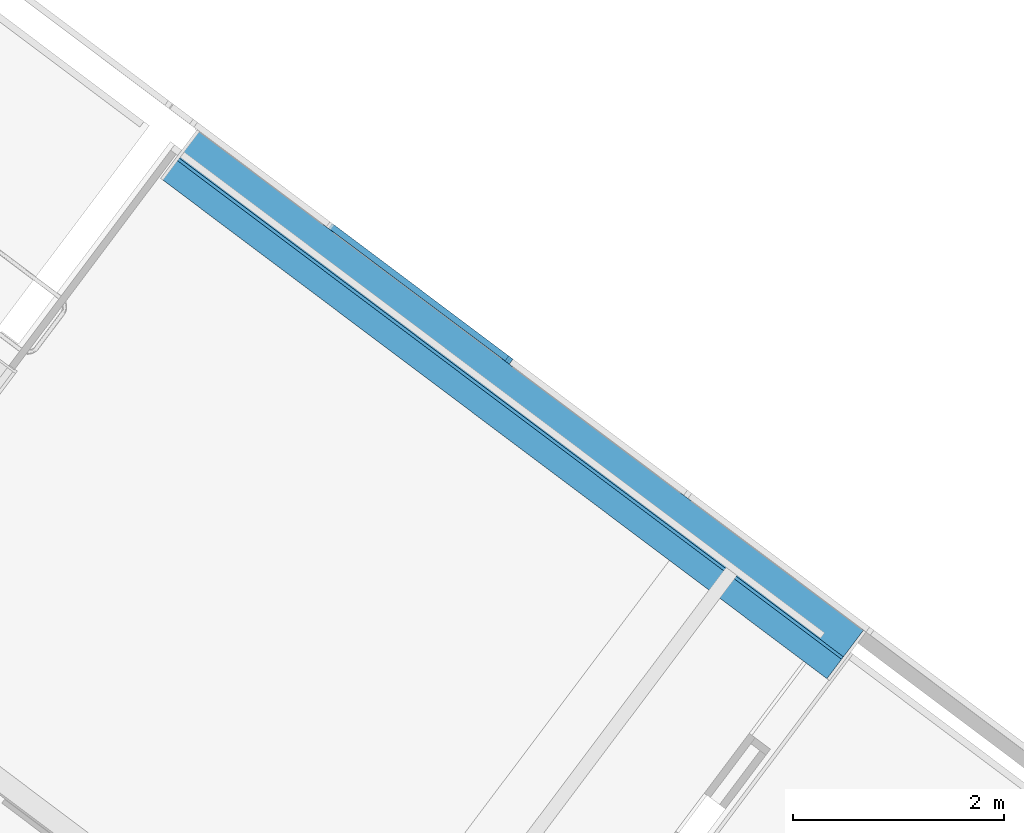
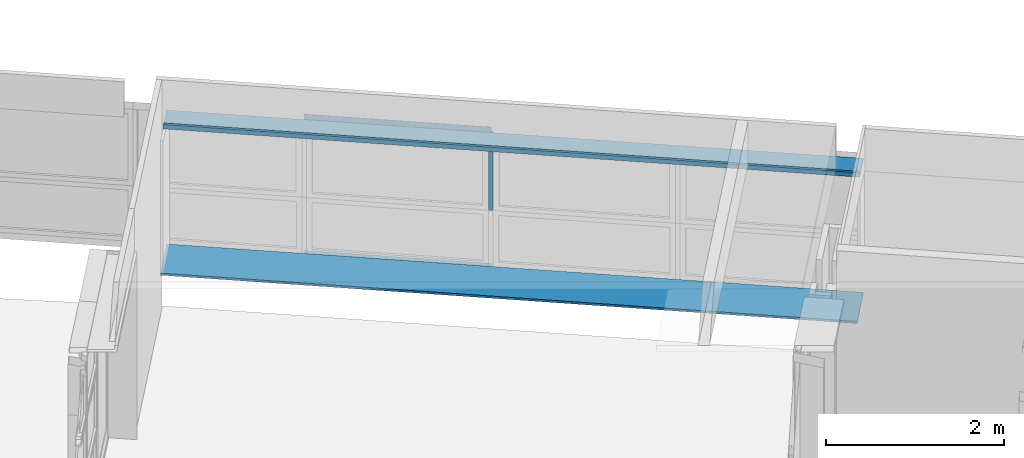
# One storey, part 32 of 243: 5 members, 2 elements without a shape of their own.
"""IFC2X3 building model written with IfcOpenShell, lengths in metres."""

from ifc_helpers import new_model, entity, si_unit, converted_unit, derived_unit, direction, frame, frame_2d, origin, origin_2d_with_axis, place, context, subcontext, project, spatial, polyline, rectangle, outline, extrude, source, transform, mapped, material, type_object, type_shapes, element, aggregate, save


model = new_model("IFC2X3")

# Units and contexts
model_context = context("Model", 3, precision=1e-05, world=origin(), true_north=direction((6.123031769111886e-17, 1.0)))
body_context = subcontext(model_context, "Body", "Model", "MODEL_VIEW")
ifc_project = project(units=[si_unit("LENGTHUNIT", "METRE"), si_unit("AREAUNIT", "SQUARE_METRE"), si_unit("VOLUMEUNIT", "CUBIC_METRE"), converted_unit("PLANEANGLEUNIT", "DEGREE", entity("IfcRatioMeasure", 0.017453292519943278), si_unit("PLANEANGLEUNIT", "RADIAN"), dimensions=[0, 0, 0, 0, 0, 0, 0]), si_unit("MASSUNIT", "GRAM", prefix="KILO"), derived_unit("MASSDENSITYUNIT", [(si_unit("MASSUNIT", "GRAM", prefix="KILO"), 1), (si_unit("LENGTHUNIT", "METRE"), -3)]), derived_unit("IONCONCENTRATIONUNIT", [(si_unit("MASSUNIT", "GRAM", prefix="KILO"), 1), (si_unit("LENGTHUNIT", "METRE"), -3)]), derived_unit("MOMENTOFINERTIAUNIT", [(si_unit("LENGTHUNIT", "METRE"), 4)]), si_unit("TIMEUNIT", "SECOND"), si_unit("FREQUENCYUNIT", "HERTZ"), si_unit("THERMODYNAMICTEMPERATUREUNIT", "DEGREE_CELSIUS"), derived_unit("THERMALTRANSMITTANCEUNIT", [(si_unit("MASSUNIT", "GRAM", prefix="KILO"), 1), (si_unit("THERMODYNAMICTEMPERATUREUNIT", "KELVIN"), -1), (si_unit("TIMEUNIT", "SECOND"), -3)]), derived_unit("THERMALCONDUCTANCEUNIT", [(si_unit("MASSUNIT", "GRAM", prefix="KILO"), 1), (si_unit("THERMODYNAMICTEMPERATUREUNIT", "KELVIN"), -1), (si_unit("TIMEUNIT", "SECOND"), -3), (si_unit("LENGTHUNIT", "METRE"), 1)]), derived_unit("VOLUMETRICFLOWRATEUNIT", [(si_unit("LENGTHUNIT", "METRE"), 3), (si_unit("TIMEUNIT", "SECOND"), -1)]), derived_unit("MASSFLOWRATEUNIT", [(si_unit("MASSUNIT", "GRAM", prefix="KILO"), 1), (si_unit("TIMEUNIT", "SECOND"), -1)]), derived_unit("ROTATIONALFREQUENCYUNIT", [(si_unit("TIMEUNIT", "SECOND"), -1)]), si_unit("ELECTRICCURRENTUNIT", "AMPERE"), si_unit("ELECTRICVOLTAGEUNIT", "VOLT"), si_unit("POWERUNIT", "WATT"), si_unit("FORCEUNIT", "NEWTON", prefix="KILO"), si_unit("ILLUMINANCEUNIT", "LUX"), si_unit("LUMINOUSFLUXUNIT", "LUMEN"), si_unit("LUMINOUSINTENSITYUNIT", "CANDELA"), derived_unit("USERDEFINED", [(si_unit("MASSUNIT", "GRAM", prefix="KILO"), -1), (si_unit("LENGTHUNIT", "METRE"), -2), (si_unit("TIMEUNIT", "SECOND"), 3), (si_unit("LUMINOUSFLUXUNIT", "LUMEN"), 1)]), derived_unit("USERDEFINED", [(si_unit("MASSUNIT", "GRAM", prefix="KILO"), 1), (si_unit("TIMEUNIT", "SECOND"), -3), (si_unit("LENGTHUNIT", "METRE"), 3), (si_unit("ELECTRICCURRENTUNIT", "AMPERE"), -2)]), derived_unit("SOUNDPOWERUNIT", [(si_unit("MASSUNIT", "GRAM", prefix="KILO"), 1), (si_unit("TIMEUNIT", "SECOND"), -3), (si_unit("LENGTHUNIT", "METRE"), 2)]), derived_unit("SOUNDPRESSUREUNIT", [(si_unit("MASSUNIT", "GRAM", prefix="KILO"), 1), (si_unit("LENGTHUNIT", "METRE"), -1), (si_unit("TIMEUNIT", "SECOND"), -2)]), derived_unit("LINEARVELOCITYUNIT", [(si_unit("LENGTHUNIT", "METRE"), 1), (si_unit("TIMEUNIT", "SECOND"), -1)]), si_unit("PRESSUREUNIT", "PASCAL"), derived_unit("USERDEFINED", [(si_unit("MASSUNIT", "GRAM", prefix="KILO"), 1), (si_unit("LENGTHUNIT", "METRE"), -2), (si_unit("TIMEUNIT", "SECOND"), -2)]), derived_unit("LINEARFORCEUNIT", [(si_unit("MASSUNIT", "GRAM", prefix="KILO"), 1), (si_unit("TIMEUNIT", "SECOND"), -2)]), derived_unit("PLANARFORCEUNIT", [(si_unit("MASSUNIT", "GRAM", prefix="KILO"), 1), (si_unit("LENGTHUNIT", "METRE"), -1), (si_unit("TIMEUNIT", "SECOND"), -2)]), derived_unit("SPECIFICHEATCAPACITYUNIT", [(si_unit("THERMODYNAMICTEMPERATUREUNIT", "KELVIN"), -1), (si_unit("LENGTHUNIT", "METRE"), 2), (si_unit("TIMEUNIT", "SECOND"), -2)]), derived_unit("HEATINGVALUEUNIT", [(si_unit("LENGTHUNIT", "METRE"), 2), (si_unit("TIMEUNIT", "SECOND"), -2)]), derived_unit("VAPORPERMEABILITYUNIT", [(si_unit("LENGTHUNIT", "METRE"), -1), (si_unit("TIMEUNIT", "SECOND"), 1)]), derived_unit("DYNAMICVISCOSITYUNIT", [(si_unit("MASSUNIT", "GRAM", prefix="KILO"), 1), (si_unit("TIMEUNIT", "SECOND"), -1), (si_unit("LENGTHUNIT", "METRE"), -1)]), derived_unit("THERMALEXPANSIONCOEFFICIENTUNIT", [(si_unit("THERMODYNAMICTEMPERATUREUNIT", "KELVIN"), -1)]), derived_unit("MODULUSOFELASTICITYUNIT", [(si_unit("MASSUNIT", "GRAM", prefix="KILO"), 1), (si_unit("LENGTHUNIT", "METRE"), -1), (si_unit("TIMEUNIT", "SECOND"), -2)]), derived_unit("ISOTHERMALMOISTURECAPACITYUNIT", [(si_unit("LENGTHUNIT", "METRE"), 3), (si_unit("MASSUNIT", "GRAM", prefix="KILO"), -1)]), derived_unit("MOISTUREDIFFUSIVITYUNIT", [(si_unit("TIMEUNIT", "SECOND"), -1), (si_unit("LENGTHUNIT", "METRE"), 2)])], contexts=[model_context])

# Site, building, storey
site_placement = place(None, frame((0.0, 0.0, 235.0), z_axis=(0.0, 0.0, 1.0), x_axis=(-0.7996477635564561, 0.6004693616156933, 0.0)))
site = spatial("IfcSite", under=ifc_project, at=site_placement, Name="Default", CompositionType="ELEMENT")
building_placement = place(site_placement, origin())
building = spatial("IfcBuilding", under=site, at=building_placement, CompositionType="ELEMENT")
storey_placement = place(building_placement, origin())
storey = spatial("IfcBuildingStorey", under=building, at=storey_placement, Name="P0- Escola", CompositionType="ELEMENT", Elevation=0.0)

# Curtain wall, members
curtain_wall_type_1 = type_object("IfcCurtainWallType", Name="Muro cortina:MC- EXT- MC6", PredefinedType="NOTDEFINED")
curtain_wall_1_placement = place(storey_placement, origin())
curtain_wall_1 = element("IfcCurtainWall", 1, at=curtain_wall_1_placement, inside=storey, type_object=curtain_wall_type_1, Name="Muro cortina:MC- EXT- MC6", ObjectType="Muro cortina:MC- EXT- MC6")
ifc_material_1 = material(Name="_Alumini- T1- Perfil")
member_type_1 = type_object("IfcMemberType", Name="Montante rectangular:MC- Alu- 140x52,5 cm- Fa pista- Superior", PredefinedType="MULLION", material=ifc_material_1)
shared_shape_1 = source(origin(), body_context, "Body", "SweptSolid", [
    extrude(outline(polyline([(-0.03933333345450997, -0.04916666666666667), (0.02066666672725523, -0.04916666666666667), (0.020666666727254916, 0.048333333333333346), (0.018666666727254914, 0.04833333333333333), (0.018666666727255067, 0.00083333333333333), (-0.03933333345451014, 0.00083333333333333), (-0.03933333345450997, -0.04916666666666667)])), frame((-0.048333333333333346, -0.03933333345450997, -2.117000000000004), z_axis=(0.0, 0.0, 1.0), x_axis=(0.0, -1.0, 0.0)), (0.0, 0.0, 1.0), 2.117000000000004),
])
type_shapes(member_type_1, [shared_shape_1])
member_1_placement = place(curtain_wall_1_placement, frame((22.005147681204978, -42.3401917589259, 2.6000000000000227), z_axis=(1.0, 0.0, 0.0), x_axis=(0.0, 0.0, 1.0)))
member_1 = element("IfcMember", 2, at=member_1_placement, type_object=member_type_1, material=ifc_material_1, Name="Montante rectangular:MC- Alu- 140x52,5 cm- Fa pista- Superior", ObjectType="Montante rectangular:MC- Alu- 140x52,5 cm- Fa pista- Superior", context=body_context, shape_type="MappedRepresentation", body=[
    mapped(shared_shape_1, transform((0.0, 0.0, 0.0), scale=1.0)),
])
member_type_2 = type_object("IfcMemberType", Name="Montante rectangular:MC- Alu- 52x80 cm- Fa pista- inferior", PredefinedType="MULLION", material=ifc_material_1)
shared_shape_2 = source(origin(), body_context, "Body", "SweptSolid", [
    extrude(rectangle(XDim=0.06000000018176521, YDim=0.085, at=origin_2d_with_axis()), frame((-0.0425, -0.030000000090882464, -2.117000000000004), z_axis=(0.0, 0.0, 1.0), x_axis=(0.0, -1.0, 0.0)), (0.0, 0.0, 1.0), 2.117000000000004),
])
type_shapes(member_type_2, [shared_shape_2])
member_2_placement = place(curtain_wall_1_placement, frame((19.888147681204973, -42.3401917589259, 0.6000000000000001), z_axis=(-1.0, 0.0, 0.0), x_axis=(0.0, 0.0, -1.0)))
member_2 = element("IfcMember", 3, at=member_2_placement, type_object=member_type_2, material=ifc_material_1, Name="Montante rectangular:MC- Alu- 52x80 cm- Fa pista- inferior", ObjectType="Montante rectangular:MC- Alu- 52x80 cm- Fa pista- inferior", context=body_context, shape_type="MappedRepresentation", body=[
    mapped(shared_shape_2, transform((0.0, 0.0, 0.0), scale=1.0)),
])
member_type_3 = type_object("IfcMemberType", Name="Montante rectangular:MC- Alu- 50x60 cm- Fa pista- Centre", PredefinedType="MULLION", material=ifc_material_1)
shared_shape_3 = source(origin(), body_context, "Body", "SweptSolid", [
    extrude(rectangle(XDim=0.0600000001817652, YDim=0.05, at=frame_2d((8.673617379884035e-18, 0.0), x_axis=(1.0, 0.0))), frame((0.0, -0.030000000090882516, -1.0475000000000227), z_axis=(0.0, 0.0, 1.0), x_axis=(0.0, -1.0, 0.0)), (0.0, 0.0, 1.0), 1.0475000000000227),
])
type_shapes(member_type_3, [shared_shape_3])
member_3_placement = place(curtain_wall_1_placement, frame((19.888147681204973, -42.3401917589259, 1.455), z_axis=(0.0, 0.0, -1.0), x_axis=(1.0, 0.0, 0.0)))
member_3 = element("IfcMember", 4, at=member_3_placement, type_object=member_type_3, material=ifc_material_1, Name="Montante rectangular:MC- Alu- 50x60 cm- Fa pista- Centre", ObjectType="Montante rectangular:MC- Alu- 50x60 cm- Fa pista- Centre", context=body_context, shape_type="MappedRepresentation", body=[
    mapped(shared_shape_3, transform((0.0, 0.0, 0.0), scale=1.0)),
])
aggregate(curtain_wall_1, [member_1, member_2, member_3])

curtain_wall_type_2 = type_object("IfcCurtainWallType", Name="Muro cortina:MC- INT- Fa Pista", PredefinedType="NOTDEFINED")
curtain_wall_2_placement = place(storey_placement, origin())
curtain_wall_2 = element("IfcCurtainWall", 5, at=curtain_wall_2_placement, inside=storey, type_object=curtain_wall_type_2, Name="Muro cortina:MC- INT- Fa Pista", ObjectType="Muro cortina:MC- INT- Fa Pista")
ifc_material_2 = material(Name="_Fusta massisa- T1")
member_type_4 = type_object("IfcMemberType", Name="Montante rectangular:MC- Fusta- 34x3 cm- Fa Pista- Remat Inferior", PredefinedType="MULLION", material=ifc_material_2)
shared_shape_4 = source(origin(), body_context, "Body", "SweptSolid", [
    extrude(outline(polyline([(-0.2783333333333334, -0.015000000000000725), (0.2966666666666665, -0.015000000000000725), (0.2966666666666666, 0.0), (-0.018333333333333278, 0.0), (-0.01833333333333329, 0.015000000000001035), (-0.2783333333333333, 0.015000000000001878), (-0.2783333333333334, -0.015000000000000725)])), frame((-0.015000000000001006, 0.046666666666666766, -7.894464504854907), z_axis=(0.0, 0.0, 1.0), x_axis=(0.0, -1.0, 0.0)), (0.0, 0.0, 1.0), 7.89446450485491),
])
type_shapes(member_type_4, [shared_shape_4])
member_4_placement = place(curtain_wall_2_placement, frame((23.561256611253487, -42.03019175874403, 0.6550000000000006), z_axis=(1.0, 0.0, 0.0), x_axis=(0.0, 0.0, -1.0)))
member_4 = element("IfcMember", 6, at=member_4_placement, type_object=member_type_4, material=ifc_material_2, Name="Montante rectangular:MC- Fusta- 34x3 cm- Fa Pista- Remat Inferior", ObjectType="Montante rectangular:MC- Fusta- 34x3 cm- Fa Pista- Remat Inferior", context=body_context, shape_type="MappedRepresentation", body=[
    mapped(shared_shape_4, transform((0.0, 0.0, 0.0), scale=1.0)),
])
member_type_5 = type_object("IfcMemberType", Name="Montante rectangular:MC- Fusta- 34x3 cm- Fa Pista- Remat Superior", PredefinedType="MULLION", material=ifc_material_2)
shared_shape_5 = source(origin(), body_context, "Body", "SweptSolid", [
    extrude(outline(polyline([(-0.12500000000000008, -0.02666666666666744), (0.22, -0.02666666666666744), (0.21999999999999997, -0.006666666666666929), (-0.0949999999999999, -0.0066666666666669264), (-0.09499999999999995, 0.03333333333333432), (-0.12499999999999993, 0.03333333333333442), (-0.12500000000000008, -0.02666666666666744)])), frame((-0.033333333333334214, -0.029999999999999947, -7.894464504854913), z_axis=(0.0, 0.0, 1.0), x_axis=(0.0, -1.0, 0.0)), (0.0, 0.0, 1.0), 7.894464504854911),
])
type_shapes(member_type_5, [shared_shape_5])
member_5_placement = place(curtain_wall_2_placement, frame((15.666792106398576, -42.03019175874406, 2.565), z_axis=(-1.0, 0.0, 0.0), x_axis=(0.0, 0.0, 1.0)))
member_5 = element("IfcMember", 7, at=member_5_placement, type_object=member_type_5, material=ifc_material_2, Name="Montante rectangular:MC- Fusta- 34x3 cm- Fa Pista- Remat Superior", ObjectType="Montante rectangular:MC- Fusta- 34x3 cm- Fa Pista- Remat Superior", context=body_context, shape_type="MappedRepresentation", body=[
    mapped(shared_shape_5, transform((0.0, 0.0, 0.0), scale=1.0)),
])
aggregate(curtain_wall_2, [member_4, member_5])

save(model, "model.ifc")
